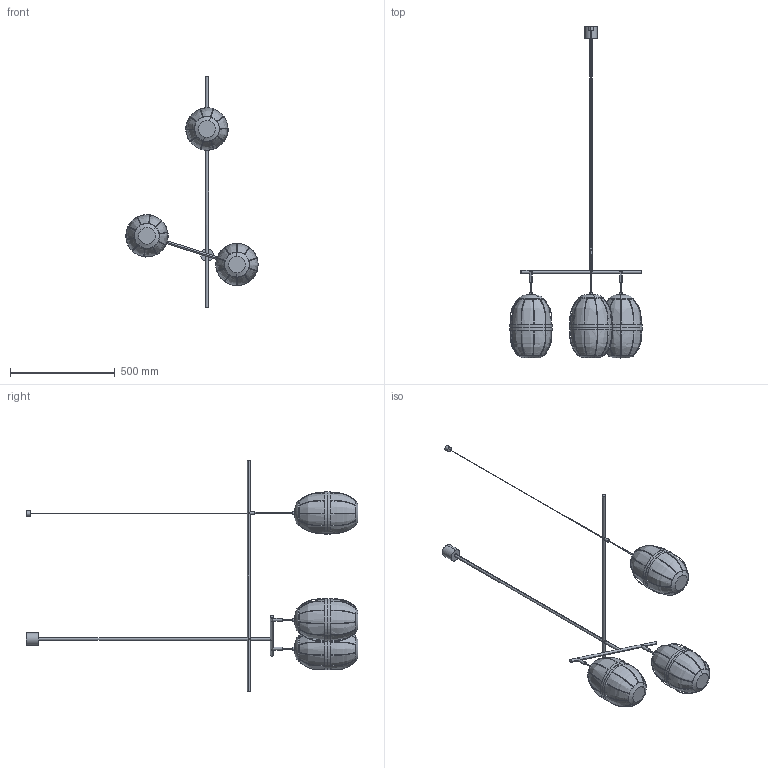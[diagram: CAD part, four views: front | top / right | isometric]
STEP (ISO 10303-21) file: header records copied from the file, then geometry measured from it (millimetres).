
FILE_DESCRIPTION (( 'STEP AP214' ), '1' );
FILE_NAME ('PULL_C1249_3.STEP', '2024-12-17T08:45:33', ( '' ), ( '' ), 'SwSTEP 2.0', 'SolidWorks 2018', '' );
FILE_SCHEMA (( 'AUTOMOTIVE_DESIGN' ));
Length unit declared in the file: millimetre
Products named in the file (4): PULL_C1249_3; estructura colgante2; estructura colganteç; tulipa
Assembly tree (5 placements, depth 2):
  PULL_C1249_3
    estructura colganteç
    tulipa  x3
    estructura colgante2
Bounding box: 630.46 x 1580 x 1100 mm (x, y, z)
Volume: 12233839.5 mm3; surface area: 1491706.4 mm2
Topology: 88 solids, 88 shells, 514 faces, 981 edges, 652 vertices
Faces by surface type: plane 186, cylinder 172, bspline 138, torus 12, cone 6
Entity records: 15246 total; most frequent: CARTESIAN_POINT 10737, ORIENTED_EDGE 794, DIRECTION 787, EDGE_CURVE 397, AXIS2_PLACEMENT_3D 352, VERTEX_POINT 264, EDGE_LOOP 221, ADVANCED_FACE 214
